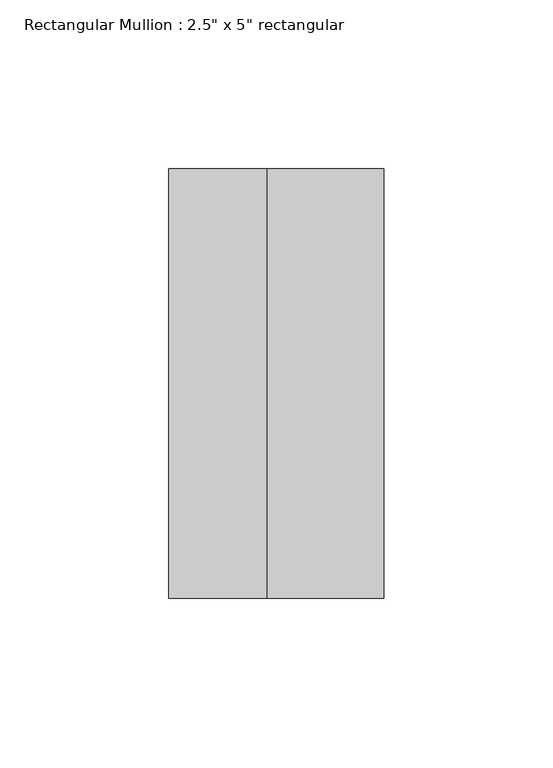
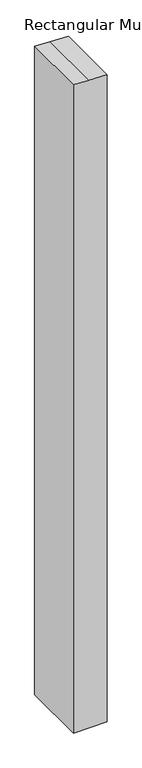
"""IFC4 building model written with IfcOpenShell, lengths in millimetres: member geometry."""

from ifc_helpers import new_model, si_unit, frame, origin, place, context, project, spatial, polyline, outline, extrude, source, transform, mapped, element, save


def member_62fa97de(model_context):
    return source(origin(), model_context, "Body", "SweptSolid", [
        extrude(outline(polyline([(-64.8775557, 31.75), (-63.4449853, -2.6426951), (-62.232569, -31.75), (-1357.1806456, -31.75), (-1357.1806456, 31.75), (-64.8775557, 31.75)])), frame((0.0, -63.5, 0.0), z_axis=(0.0, 1.0, 0.0), x_axis=(0.0, 0.0, 1.0)), (0.0, 0.0, 1.0), 127.0),
    ])


if __name__ == "__main__":
    model = new_model("IFC4")
    model_context = context("Model", 3, world=origin())
    ifc_project = project(units=[si_unit("LENGTHUNIT", "METRE", prefix="MILLI")], contexts=[model_context])
    site = spatial("IfcSite", under=ifc_project)
    building = spatial("IfcBuilding", under=site)
    placement = place(None, origin())
    member_shape = member_62fa97de(model_context)
    element("IfcMember", 1, ObjectType="Rectangular Mullion : 2.5\" x 5\" rectangular", at=placement, inside=building, context=model_context, shape_type="MappedRepresentation", body=[
        mapped(member_shape, transform((0.0, 0.0, 0.0), x_axis=(1.0, 0.0, 0.0), y_axis=(0.0, 1.0, 0.0), z_axis=(0.0, 0.0, 1.0))),
    ])
    save(model, "model.ifc")
